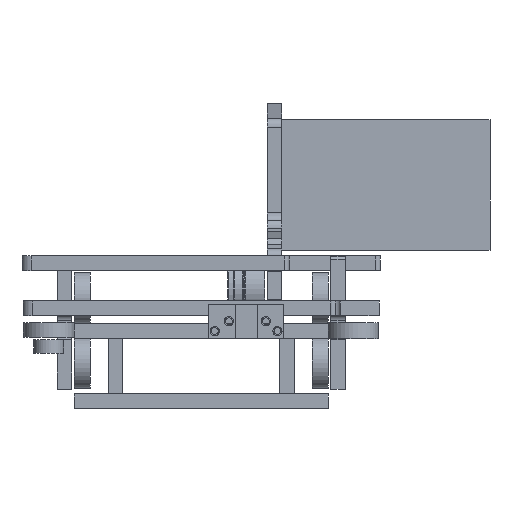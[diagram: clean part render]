
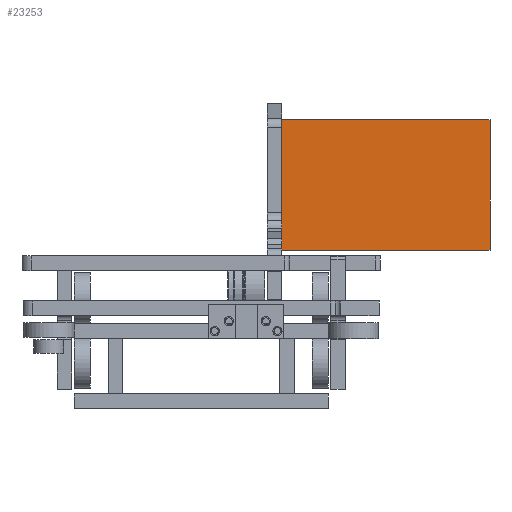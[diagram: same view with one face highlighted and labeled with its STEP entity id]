
A CAD part, left-side view. The second image highlights one B-rep face of the part: STEP entity #23253.
In plain terms, the highlighted planar face has unit normal (-1, 0, 0).
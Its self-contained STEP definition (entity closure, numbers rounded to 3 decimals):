
#632=PLANE('',#25393);
#1524=FACE_OUTER_BOUND('',#2946,.T.);
#2946=EDGE_LOOP('',(#18731,#18732,#18733,#18734));
#4656=LINE('',#38036,#6604);
#4657=LINE('',#38039,#6605);
#4658=LINE('',#38041,#6606);
#4659=LINE('',#38042,#6607);
#6604=VECTOR('',#30820,10.);
#6605=VECTOR('',#30823,10.);
#6606=VECTOR('',#30824,10.);
#6607=VECTOR('',#30825,10.);
#10307=VERTEX_POINT('',#38030);
#10309=VERTEX_POINT('',#38034);
#10310=VERTEX_POINT('',#38038);
#10311=VERTEX_POINT('',#38040);
#13286=EDGE_CURVE('',#10307,#10309,#4656,.T.);
#13287=EDGE_CURVE('',#10307,#10310,#4657,.T.);
#13288=EDGE_CURVE('',#10311,#10309,#4658,.T.);
#13289=EDGE_CURVE('',#10310,#10311,#4659,.T.);
#18731=ORIENTED_EDGE('',*,*,#13287,.F.);
#18732=ORIENTED_EDGE('',*,*,#13286,.T.);
#18733=ORIENTED_EDGE('',*,*,#13288,.F.);
#18734=ORIENTED_EDGE('',*,*,#13289,.F.);
#23253=ADVANCED_FACE('',(#1524),#632,.T.);
#25393=AXIS2_PLACEMENT_3D('',#38037,#30821,#30822);
#30820=DIRECTION('',(0.,-1.,0.));
#30821=DIRECTION('center_axis',(-1.,0.,0.));
#30822=DIRECTION('ref_axis',(0.,0.,-1.));
#30823=DIRECTION('',(0.,0.,1.));
#30824=DIRECTION('',(0.,0.,-1.));
#30825=DIRECTION('',(0.,-1.,0.));
#38030=CARTESIAN_POINT('',(40.3,20.1,31.8));
#38034=CARTESIAN_POINT('',(40.3,-69.9,31.8));
#38036=CARTESIAN_POINT('',(40.3,20.1,31.8));
#38037=CARTESIAN_POINT('Origin',(40.3,20.1,88.2));
#38038=CARTESIAN_POINT('',(40.3,20.1,88.2));
#38039=CARTESIAN_POINT('',(40.3,20.1,31.8));
#38040=CARTESIAN_POINT('',(40.3,-69.9,88.2));
#38041=CARTESIAN_POINT('',(40.3,-69.9,31.8));
#38042=CARTESIAN_POINT('',(40.3,20.1,88.2));
